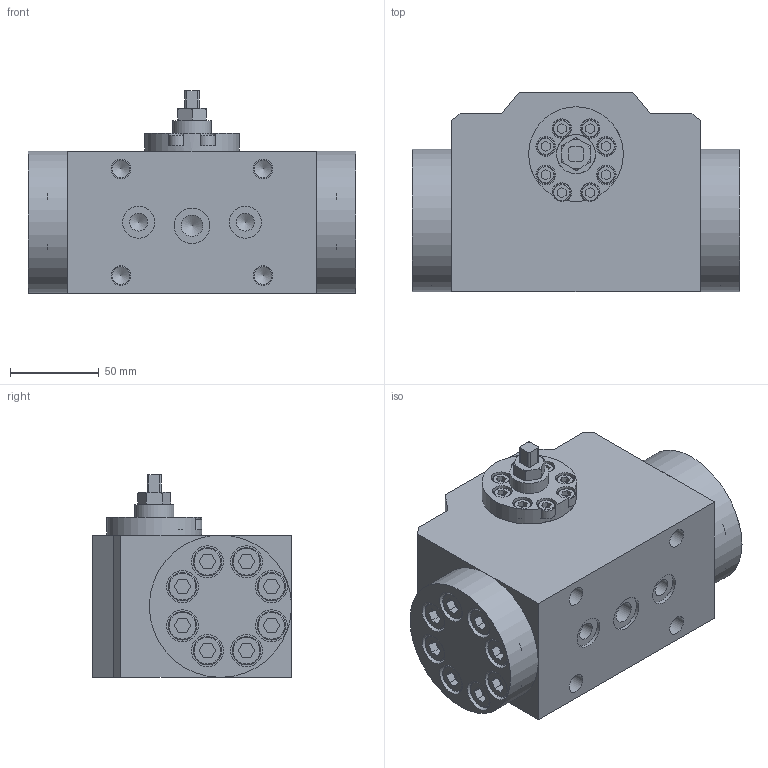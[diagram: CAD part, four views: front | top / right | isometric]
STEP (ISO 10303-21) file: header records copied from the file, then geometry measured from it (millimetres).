
FILE_DESCRIPTION(/* description */ (''),/* implementation_level */ '2;1');
FILE_NAME(/* name */ '7-2.prt.stp',/* time_stamp */ '2023-05-03T13:20:48+08:00',/* author */ (''),/* organization */ (''),/* preprocessor_version */ 'ST-DEVELOPER v16.7',/* originating_system */ 'SIEMENS PLM Software NX 12.0',/* authorisation */ '');
FILE_SCHEMA (('AUTOMOTIVE_DESIGN { 1 0 10303 214 3 1 1 1 }'));
Length unit declared in the file: millimetre
Products named in the file (1): 7-2
Bounding box: 184 x 112 x 114 mm (x, y, z)
Volume: 1384436.9 mm3; surface area: 195564.6 mm2
Topology: 31 solids, 31 shells, 683 faces, 1686 edges, 1116 vertices
Faces by surface type: plane 401, cylinder 191, cone 55, torus 36
Full cylindrical faces by diameter (mm): 5 x8, 6 x8, 7 x8, 8.5 x16, 10 x30, 11 x24, 12 x1, 16 x16, 18 x18, 20 x1, 22 x2, 53.244 x1, 80 x2
Entity records: 18424 total; most frequent: CARTESIAN_POINT 3175, DIRECTION 3152, ORIENTED_EDGE 2624, EDGE_CURVE 1312, AXIS2_PLACEMENT_3D 1180, EDGE_LOOP 1070, VERTEX_POINT 1011, LINE 792
